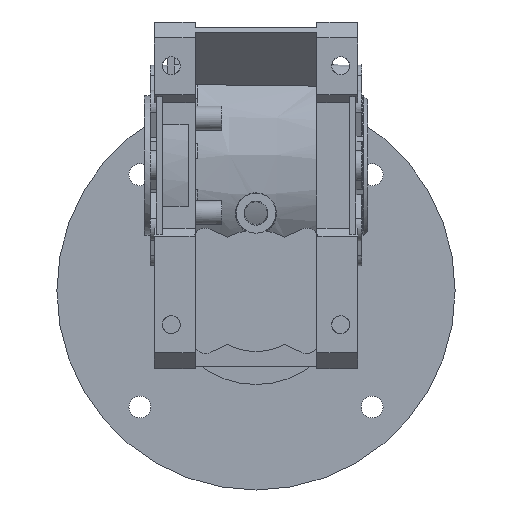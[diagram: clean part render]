
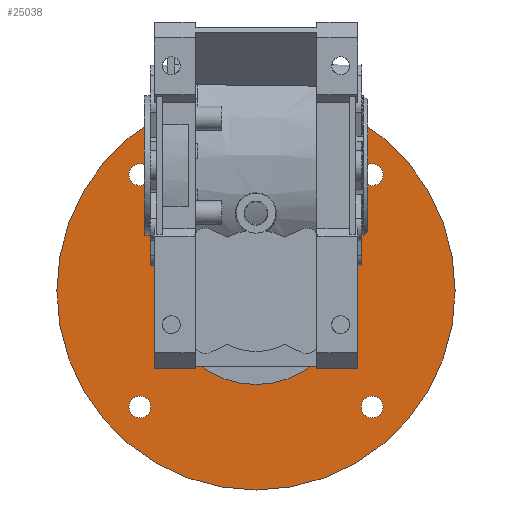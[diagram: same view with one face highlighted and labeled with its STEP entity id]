
A CAD part, front view. The second image highlights one B-rep face of the part: STEP entity #25038.
In plain terms, the highlighted planar face has unit normal (0, -1, 0).
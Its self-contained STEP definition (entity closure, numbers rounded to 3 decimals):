
#125 = EDGE_CURVE ( 'NONE', #22093, #22093, #24198, .T. ) ;
#1134 = ORIENTED_EDGE ( 'NONE', *, *, #4381, .T. ) ;
#1829 = CARTESIAN_POINT ( 'NONE',  ( 58.336, 76., -126.836 ) ) ;
#1996 = AXIS2_PLACEMENT_3D ( 'NONE', #27910, #13084, #30401 ) ;
#2244 = EDGE_LOOP ( 'NONE', ( #7799 ) ) ;
#2278 = CARTESIAN_POINT ( 'NONE',  ( 58.336, 76., -10.164 ) ) ;
#2460 = FACE_OUTER_BOUND ( 'NONE', #27022, .T. ) ;
#3228 = FACE_BOUND ( 'NONE', #28326, .T. ) ;
#3254 = AXIS2_PLACEMENT_3D ( 'NONE', #4371, #21682, #6882 ) ;
#3384 = CARTESIAN_POINT ( 'NONE',  ( 58.336, 76., -121.336 ) ) ;
#3479 = CARTESIAN_POINT ( 'NONE',  ( 0., 76., -63. ) ) ;
#4018 = FACE_BOUND ( 'NONE', #12418, .T. ) ;
#4371 = CARTESIAN_POINT ( 'NONE',  ( -58.336, 76., -121.336 ) ) ;
#4381 = EDGE_CURVE ( 'NONE', #7391, #7391, #4555, .T. ) ;
#4458 = CARTESIAN_POINT ( 'NONE',  ( 0., 76., -110. ) ) ;
#4555 = CIRCLE ( 'NONE', #27791, 100. ) ;
#5901 = DIRECTION ( 'NONE',  ( 0., 0., -1. ) ) ;
#5990 = DIRECTION ( 'NONE',  ( 0., 0., -1. ) ) ;
#6882 = DIRECTION ( 'NONE',  ( 0., 0., -1. ) ) ;
#7391 = VERTEX_POINT ( 'NONE', #28712 ) ;
#7799 = ORIENTED_EDGE ( 'NONE', *, *, #17137, .F. ) ;
#8332 = CIRCLE ( 'NONE', #1996, 5.5 ) ;
#9057 = FACE_BOUND ( 'NONE', #10773, .T. ) ;
#9427 = DIRECTION ( 'NONE',  ( 0., -1., 0. ) ) ;
#10009 = AXIS2_PLACEMENT_3D ( 'NONE', #28116, #13307, #30599 ) ;
#10622 = DIRECTION ( 'NONE',  ( 0., -1., 0. ) ) ;
#10773 = EDGE_LOOP ( 'NONE', ( #11646 ) ) ;
#10786 = AXIS2_PLACEMENT_3D ( 'NONE', #24238, #9427, #16538 ) ;
#11170 = CIRCLE ( 'NONE', #10009, 47. ) ;
#11253 = VERTEX_POINT ( 'NONE', #4458 ) ;
#11646 = ORIENTED_EDGE ( 'NONE', *, *, #20739, .T. ) ;
#12418 = EDGE_LOOP ( 'NONE', ( #17834 ) ) ;
#13084 = DIRECTION ( 'NONE',  ( 0., -1., 0. ) ) ;
#13307 = DIRECTION ( 'NONE',  ( 0., 1., 0. ) ) ;
#13550 = VERTEX_POINT ( 'NONE', #1829 ) ;
#15611 = FACE_BOUND ( 'NONE', #2244, .T. ) ;
#16356 = EDGE_CURVE ( 'NONE', #26723, #26723, #31724, .T. ) ;
#16538 = DIRECTION ( 'NONE',  ( 0., 0., -1. ) ) ;
#17137 = EDGE_CURVE ( 'NONE', #13550, #13550, #17740, .T. ) ;
#17740 = CIRCLE ( 'NONE', #25259, 5.5 ) ;
#17834 = ORIENTED_EDGE ( 'NONE', *, *, #16356, .F. ) ;
#17962 = CARTESIAN_POINT ( 'NONE',  ( 73.5, 76., -63. ) ) ;
#20568 = EDGE_LOOP ( 'NONE', ( #30054 ) ) ;
#20718 = DIRECTION ( 'NONE',  ( 0., -1., 0. ) ) ;
#20739 = EDGE_CURVE ( 'NONE', #11253, #11253, #11170, .T. ) ;
#20807 = DIRECTION ( 'NONE',  ( 0., -1., 0. ) ) ;
#21682 = DIRECTION ( 'NONE',  ( 0., -1., 0. ) ) ;
#22093 = VERTEX_POINT ( 'NONE', #23503 ) ;
#22226 = FACE_BOUND ( 'NONE', #20568, .T. ) ;
#22812 = ORIENTED_EDGE ( 'NONE', *, *, #125, .F. ) ;
#23503 = CARTESIAN_POINT ( 'NONE',  ( -58.336, 76., -10.164 ) ) ;
#24198 = CIRCLE ( 'NONE', #10786, 5.5 ) ;
#24238 = CARTESIAN_POINT ( 'NONE',  ( -58.336, 76., -4.664 ) ) ;
#24767 = VERTEX_POINT ( 'NONE', #2278 ) ;
#24958 = AXIS2_PLACEMENT_3D ( 'NONE', #17962, #10622, #27909 ) ;
#25038 = ADVANCED_FACE ( 'NONE', ( #22226, #3228, #4018, #15611, #9057, #2460 ), #25431, .T. ) ;
#25259 = AXIS2_PLACEMENT_3D ( 'NONE', #3384, #20718, #5901 ) ;
#25431 = PLANE ( 'NONE',  #24958 ) ;
#26723 = VERTEX_POINT ( 'NONE', #31509 ) ;
#27022 = EDGE_LOOP ( 'NONE', ( #1134 ) ) ;
#27791 = AXIS2_PLACEMENT_3D ( 'NONE', #3479, #20807, #5990 ) ;
#27909 = DIRECTION ( 'NONE',  ( 0., 0., -1. ) ) ;
#27910 = CARTESIAN_POINT ( 'NONE',  ( 58.336, 76., -4.664 ) ) ;
#28116 = CARTESIAN_POINT ( 'NONE',  ( 0., 76., -63. ) ) ;
#28326 = EDGE_LOOP ( 'NONE', ( #22812 ) ) ;
#28661 = EDGE_CURVE ( 'NONE', #24767, #24767, #8332, .T. ) ;
#28712 = CARTESIAN_POINT ( 'NONE',  ( 0., 76., -163. ) ) ;
#30054 = ORIENTED_EDGE ( 'NONE', *, *, #28661, .F. ) ;
#30401 = DIRECTION ( 'NONE',  ( 0., 0., -1. ) ) ;
#30599 = DIRECTION ( 'NONE',  ( 0., 0., -1. ) ) ;
#31509 = CARTESIAN_POINT ( 'NONE',  ( -58.336, 76., -126.836 ) ) ;
#31724 = CIRCLE ( 'NONE', #3254, 5.5 ) ;
